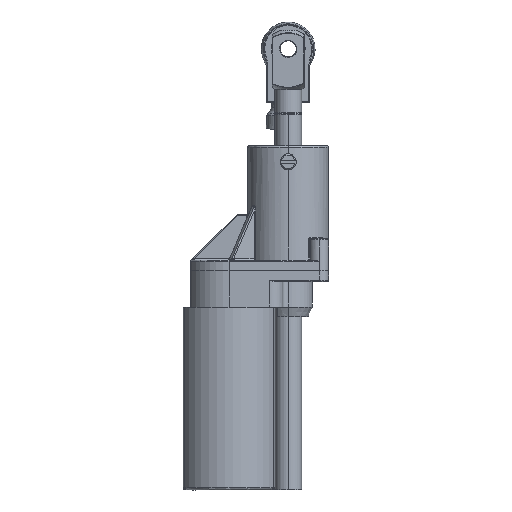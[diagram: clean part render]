
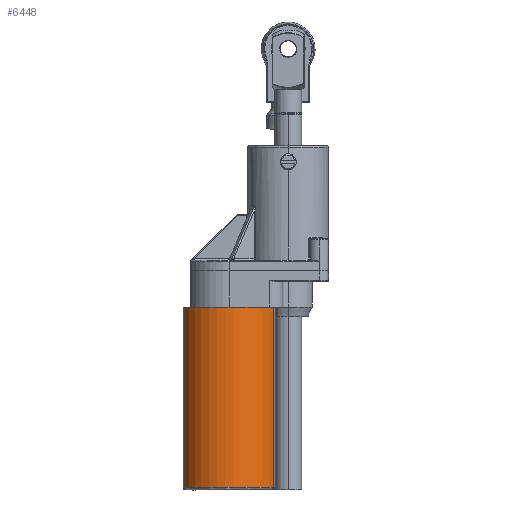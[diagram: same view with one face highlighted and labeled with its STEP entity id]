
A CAD part, left-side view. The second image highlights one B-rep face of the part: STEP entity #6448.
In plain terms, the highlighted cylindrical face has radius 18.5 mm (diameter 37 mm), a partial arc.
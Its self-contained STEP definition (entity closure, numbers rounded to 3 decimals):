
#6310 = VERTEX_POINT ( 'NONE', #10596 ) ;
#6447 = EDGE_CURVE ( 'NONE', #6578, #6454, #10857, .T. ) ;
#6448 = ADVANCED_FACE ( 'NONE', ( #10852 ), #10851, .T. ) ;
#6453 = EDGE_CURVE ( 'NONE', #6454, #6310, #10740, .T. ) ;
#6454 = VERTEX_POINT ( 'NONE', #10736 ) ;
#6515 = EDGE_CURVE ( 'NONE', #6310, #6628, #10977, .T. ) ;
#6576 = EDGE_CURVE ( 'NONE', #6628, #6578, #11205, .T. ) ;
#6578 = VERTEX_POINT ( 'NONE', #11201 ) ;
#6579 = ORIENTED_EDGE ( 'NONE', *, *, #6576, .T. ) ;
#6608 = ORIENTED_EDGE ( 'NONE', *, *, #6447, .T. ) ;
#6609 = ORIENTED_EDGE ( 'NONE', *, *, #6453, .T. ) ;
#6611 = EDGE_LOOP ( 'NONE', ( #6579, #6608, #6609, #6612 ) ) ;
#6612 = ORIENTED_EDGE ( 'NONE', *, *, #6515, .T. ) ;
#6628 = VERTEX_POINT ( 'NONE', #11079 ) ;
#10596 = CARTESIAN_POINT ( 'NONE',  ( -16.444, 8.475, 67. ) ) ;
#10736 = CARTESIAN_POINT ( 'NONE',  ( -16.444, 8.475, 0. ) ) ;
#10737 = DIRECTION ( 'NONE',  ( 0., 0., 1. ) ) ;
#10738 = VECTOR ( 'NONE', #10737, 1000. ) ;
#10739 = CARTESIAN_POINT ( 'NONE',  ( -16.444, 8.475, 68. ) ) ;
#10740 = LINE ( 'NONE', #10739, #10738 ) ;
#10847 = DIRECTION ( 'NONE',  ( -1., 0., 0. ) ) ;
#10848 = DIRECTION ( 'NONE',  ( 0., 0., -1. ) ) ;
#10849 = CARTESIAN_POINT ( 'NONE',  ( 0., 0., 68. ) ) ;
#10850 = AXIS2_PLACEMENT_3D ( 'NONE', #10849, #10848, #10847 ) ;
#10851 = CYLINDRICAL_SURFACE ( 'NONE', #10850, 18.5 ) ;
#10852 = FACE_OUTER_BOUND ( 'NONE', #6611, .T. ) ;
#10853 = DIRECTION ( 'NONE',  ( -1., 0., 0. ) ) ;
#10854 = DIRECTION ( 'NONE',  ( 0., 0., 1. ) ) ;
#10855 = CARTESIAN_POINT ( 'NONE',  ( 0., 0., 0. ) ) ;
#10856 = AXIS2_PLACEMENT_3D ( 'NONE', #10855, #10854, #10853 ) ;
#10857 = CIRCLE ( 'NONE', #10856, 18.5 ) ;
#10974 = DIRECTION ( 'NONE',  ( -1., 0., 0. ) ) ;
#10975 = DIRECTION ( 'NONE',  ( 0., 0., -1. ) ) ;
#10976 = AXIS2_PLACEMENT_3D ( 'NONE', #11012, #10975, #10974 ) ;
#10977 = CIRCLE ( 'NONE', #10976, 18.5 ) ;
#11012 = CARTESIAN_POINT ( 'NONE',  ( 0., 0., 67. ) ) ;
#11079 = CARTESIAN_POINT ( 'NONE',  ( 16.444, 8.475, 67. ) ) ;
#11201 = CARTESIAN_POINT ( 'NONE',  ( 16.444, 8.475, 0. ) ) ;
#11202 = DIRECTION ( 'NONE',  ( 0., 0., -1. ) ) ;
#11203 = VECTOR ( 'NONE', #11202, 1000. ) ;
#11204 = CARTESIAN_POINT ( 'NONE',  ( 16.444, 8.475, 68. ) ) ;
#11205 = LINE ( 'NONE', #11204, #11203 ) ;
